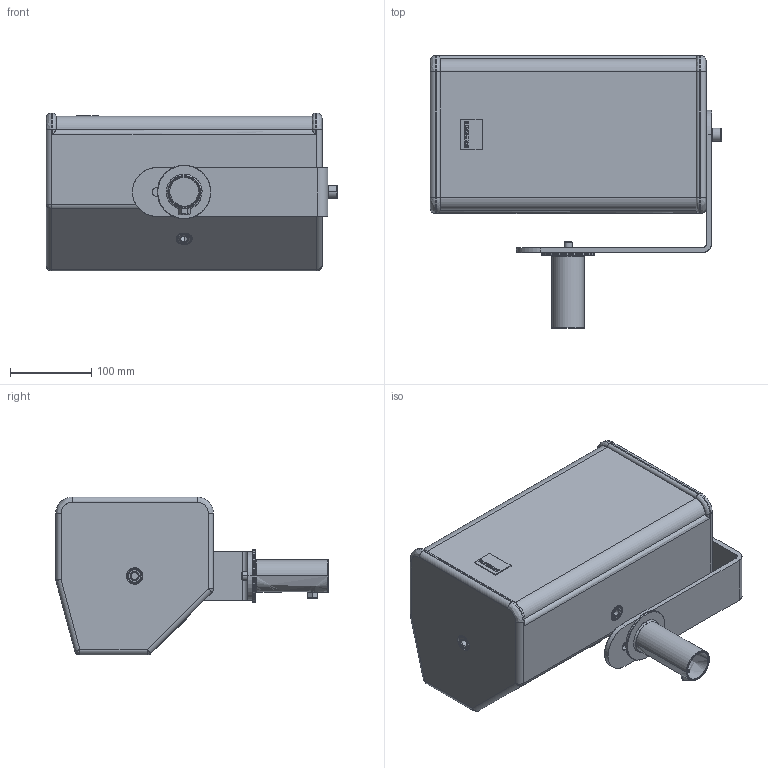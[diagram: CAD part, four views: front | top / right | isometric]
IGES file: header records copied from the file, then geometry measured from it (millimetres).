
Start section: SolidWorks IGES file using analytic representation for surfaces
Global section: file name: C:\Dokumente und Einstellungen\PC_Fabian\Desktop\TS-Serie\Seeburg_TSNano_J-Bracket_hor.IGS; native system: SolidWorks 2009; preprocessor: SolidWorks 2009; author: PC_Fabian; date: 121017.142127; units: millimetre
Bounding box: 358.3 x 335 x 194 mm (x, y, z)
Surface area: 742940.2 mm2 (no closed solid volume)
Topology: 0 solids, 0 shells, 467 faces, 5755 edges, 5753 vertices
Faces by surface type: revolution 276, bspline 191
